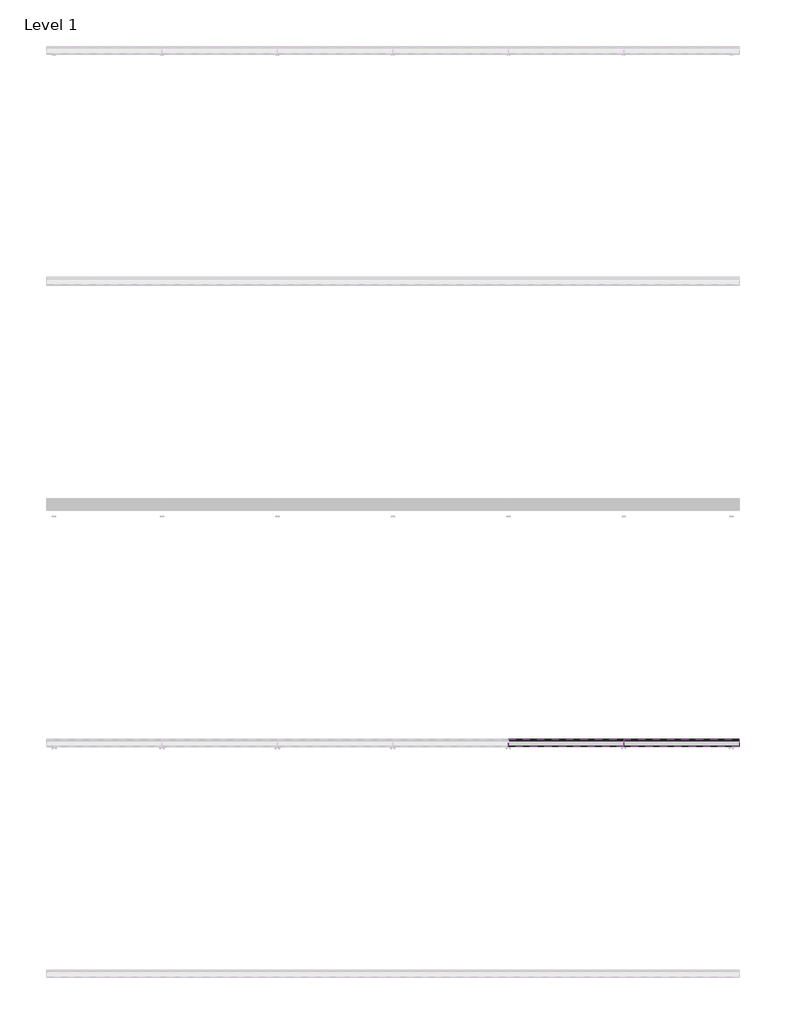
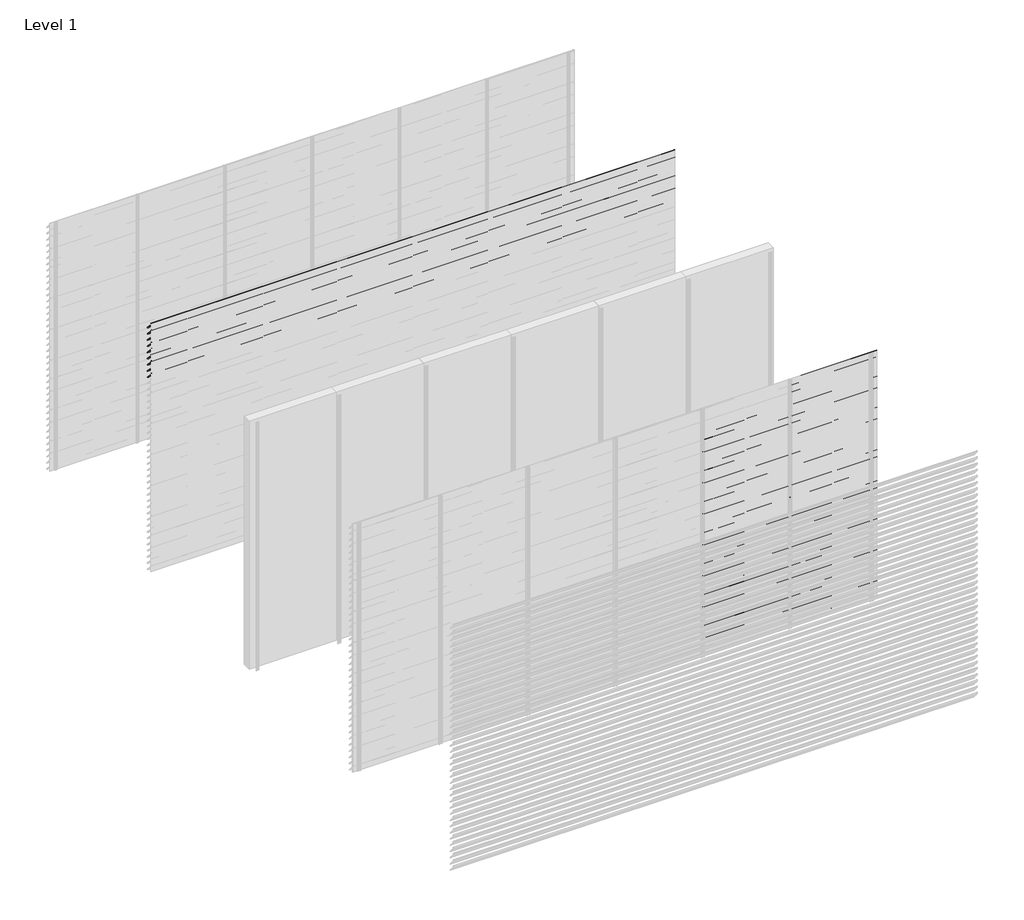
# One storey, part 32 of 35: 86 proxies.
"""IFC4 building model written with IfcOpenShell, lengths in millimetres."""

from ifc_helpers import new_model, si_unit, frame, origin, place, context, project, spatial, polyline, outline, extrude, element, save

model = new_model("IFC4")

# Units and contexts
model_context = context("Model", 3, world=origin())
ifc_project = project(units=[si_unit("LENGTHUNIT", "METRE", prefix="MILLI")], contexts=[model_context])

# Site, building, storey
site = spatial("IfcSite", under=ifc_project)
building = spatial("IfcBuilding", under=site)
storey = spatial("IfcBuildingStorey", under=building, Name="Level 1", Elevation=0.0)

# Proxies
placement = place(None, origin())
element("IfcBuildingElementProxy", 1, Name="Wall Sweeps", at=placement, inside=storey, context=model_context, shape_type="SweptSolid", body=[
    extrude(outline(polyline([(-1996.5, 3000.0), (-1996.5, 2985.5463701), (-1934.5, 2913.9330051), (-1934.5, 2910.4), (-1936.0, 2910.4), (-1936.0, 2913.3738975), (-1998.0, 2984.9872626), (-1998.0, 3000.0), (-1996.5, 3000.0)])), frame((0.0, 0.0, 0.0), z_axis=(1.0, 0.0, 0.0), x_axis=(0.0, 1.0, 0.0)), (0.0, 0.0, 1.0), 6000.0),
])
element("IfcBuildingElementProxy", 2, Name="Wall Sweeps", at=placement, inside=storey, context=model_context, shape_type="SweptSolid", body=[
    extrude(outline(polyline([(-1996.5, 2925.0), (-1996.5, 2910.5463701), (-1934.5, 2838.9330051), (-1934.5, 2835.4), (-1936.0, 2835.4), (-1936.0, 2838.3738975), (-1998.0, 2909.9872626), (-1998.0, 2925.0), (-1996.5, 2925.0)])), frame((0.0, 0.0, 0.0), z_axis=(1.0, 0.0, 0.0), x_axis=(0.0, 1.0, 0.0)), (0.0, 0.0, 1.0), 6000.0),
])
element("IfcBuildingElementProxy", 3, Name="Wall Sweeps", at=placement, inside=storey, context=model_context, shape_type="SweptSolid", body=[
    extrude(outline(polyline([(-1996.5, 2850.0), (-1996.5, 2835.5463701), (-1934.5, 2763.9330051), (-1934.5, 2760.4), (-1936.0, 2760.4), (-1936.0, 2763.3738975), (-1998.0, 2834.9872626), (-1998.0, 2850.0), (-1996.5, 2850.0)])), frame((0.0, 0.0, 0.0), z_axis=(1.0, 0.0, 0.0), x_axis=(0.0, 1.0, 0.0)), (0.0, 0.0, 1.0), 6000.0),
])
element("IfcBuildingElementProxy", 4, Name="Wall Sweeps", at=placement, inside=storey, context=model_context, shape_type="SweptSolid", body=[
    extrude(outline(polyline([(-1996.5, 2775.0), (-1996.5, 2760.5463701), (-1934.5, 2688.9330051), (-1934.5, 2685.4), (-1936.0, 2685.4), (-1936.0, 2688.3738975), (-1998.0, 2759.9872626), (-1998.0, 2775.0), (-1996.5, 2775.0)])), frame((0.0, 0.0, 0.0), z_axis=(1.0, 0.0, 0.0), x_axis=(0.0, 1.0, 0.0)), (0.0, 0.0, 1.0), 6000.0),
])
element("IfcBuildingElementProxy", 5, Name="Wall Sweeps", at=placement, inside=storey, context=model_context, shape_type="SweptSolid", body=[
    extrude(outline(polyline([(-1996.5, 2700.0), (-1996.5, 2685.5463701), (-1934.5, 2613.9330051), (-1934.5, 2610.4), (-1936.0, 2610.4), (-1936.0, 2613.3738975), (-1998.0, 2684.9872626), (-1998.0, 2700.0), (-1996.5, 2700.0)])), frame((0.0, 0.0, 0.0), z_axis=(1.0, 0.0, 0.0), x_axis=(0.0, 1.0, 0.0)), (0.0, 0.0, 1.0), 6000.0),
])
element("IfcBuildingElementProxy", 6, Name="Wall Sweeps", at=placement, inside=storey, context=model_context, shape_type="SweptSolid", body=[
    extrude(outline(polyline([(-1996.5, 2625.0), (-1996.5, 2610.5463701), (-1934.5, 2538.9330051), (-1934.5, 2535.4), (-1936.0, 2535.4), (-1936.0, 2538.3738975), (-1998.0, 2609.9872626), (-1998.0, 2625.0), (-1996.5, 2625.0)])), frame((0.0, 0.0, 0.0), z_axis=(1.0, 0.0, 0.0), x_axis=(0.0, 1.0, 0.0)), (0.0, 0.0, 1.0), 6000.0),
])
element("IfcBuildingElementProxy", 7, Name="Wall Sweeps", at=placement, inside=storey, context=model_context, shape_type="SweptSolid", body=[
    extrude(outline(polyline([(-1996.5, 2550.0), (-1996.5, 2535.5463701), (-1934.5, 2463.9330051), (-1934.5, 2460.4), (-1936.0, 2460.4), (-1936.0, 2463.3738975), (-1998.0, 2534.9872626), (-1998.0, 2550.0), (-1996.5, 2550.0)])), frame((0.0, 0.0, 0.0), z_axis=(1.0, 0.0, 0.0), x_axis=(0.0, 1.0, 0.0)), (0.0, 0.0, 1.0), 6000.0),
])
element("IfcBuildingElementProxy", 8, Name="Wall Sweeps", at=placement, inside=storey, context=model_context, shape_type="SweptSolid", body=[
    extrude(outline(polyline([(-1996.5, 2475.0), (-1996.5, 2460.5463701), (-1934.5, 2388.9330051), (-1934.5, 2385.4), (-1936.0, 2385.4), (-1936.0, 2388.3738975), (-1998.0, 2459.9872626), (-1998.0, 2475.0), (-1996.5, 2475.0)])), frame((0.0, 0.0, 0.0), z_axis=(1.0, 0.0, 0.0), x_axis=(0.0, 1.0, 0.0)), (0.0, 0.0, 1.0), 6000.0),
])
element("IfcBuildingElementProxy", 9, Name="Wall Sweeps", at=placement, inside=storey, context=model_context, shape_type="SweptSolid", body=[
    extrude(outline(polyline([(-1996.5, 2400.0), (-1996.5, 2385.5463701), (-1934.5, 2313.9330051), (-1934.5, 2310.4), (-1936.0, 2310.4), (-1936.0, 2313.3738975), (-1998.0, 2384.9872626), (-1998.0, 2400.0), (-1996.5, 2400.0)])), frame((0.0, 0.0, 0.0), z_axis=(1.0, 0.0, 0.0), x_axis=(0.0, 1.0, 0.0)), (0.0, 0.0, 1.0), 6000.0),
])
element("IfcBuildingElementProxy", 10, Name="Wall Sweeps", at=placement, inside=storey, context=model_context, shape_type="SweptSolid", body=[
    extrude(outline(polyline([(-5996.5, 2775.0), (-5996.5, 2760.5463701), (-5934.5, 2688.9330051), (-5934.5, 2685.4), (-5936.0, 2685.4), (-5936.0, 2688.3738975), (-5998.0, 2759.9872626), (-5998.0, 2775.0), (-5996.5, 2775.0)])), frame((4000.0, 0.0, 0.0), z_axis=(1.0, 0.0, 0.0), x_axis=(0.0, 1.0, 0.0)), (0.0, 0.0, 1.0), 1000.0),
])
element("IfcBuildingElementProxy", 11, Name="Wall Sweeps", at=placement, inside=storey, context=model_context, shape_type="SweptSolid", body=[
    extrude(outline(polyline([(-5996.5, 2700.0), (-5996.5, 2685.5463701), (-5934.5, 2613.9330051), (-5934.5, 2610.4), (-5936.0, 2610.4), (-5936.0, 2613.3738975), (-5998.0, 2684.9872626), (-5998.0, 2700.0), (-5996.5, 2700.0)])), frame((4000.0, 0.0, 0.0), z_axis=(1.0, 0.0, 0.0), x_axis=(0.0, 1.0, 0.0)), (0.0, 0.0, 1.0), 1000.0),
])
element("IfcBuildingElementProxy", 12, Name="Wall Sweeps", at=placement, inside=storey, context=model_context, shape_type="SweptSolid", body=[
    extrude(outline(polyline([(-5996.5, 2625.0), (-5996.5, 2610.5463701), (-5934.5, 2538.9330051), (-5934.5, 2535.4), (-5936.0, 2535.4), (-5936.0, 2538.3738975), (-5998.0, 2609.9872626), (-5998.0, 2625.0), (-5996.5, 2625.0)])), frame((4000.0, 0.0, 0.0), z_axis=(1.0, 0.0, 0.0), x_axis=(0.0, 1.0, 0.0)), (0.0, 0.0, 1.0), 1000.0),
])
element("IfcBuildingElementProxy", 13, Name="Wall Sweeps", at=placement, inside=storey, context=model_context, shape_type="SweptSolid", body=[
    extrude(outline(polyline([(-5996.5, 2550.0), (-5996.5, 2535.5463701), (-5934.5, 2463.9330051), (-5934.5, 2460.4), (-5936.0, 2460.4), (-5936.0, 2463.3738975), (-5998.0, 2534.9872626), (-5998.0, 2550.0), (-5996.5, 2550.0)])), frame((4000.0, 0.0, 0.0), z_axis=(1.0, 0.0, 0.0), x_axis=(0.0, 1.0, 0.0)), (0.0, 0.0, 1.0), 1000.0),
])
element("IfcBuildingElementProxy", 14, Name="Wall Sweeps", at=placement, inside=storey, context=model_context, shape_type="SweptSolid", body=[
    extrude(outline(polyline([(-5996.5, 2475.0), (-5996.5, 2460.5463701), (-5934.5, 2388.9330051), (-5934.5, 2385.4), (-5936.0, 2385.4), (-5936.0, 2388.3738975), (-5998.0, 2459.9872626), (-5998.0, 2475.0), (-5996.5, 2475.0)])), frame((4000.0, 0.0, 0.0), z_axis=(1.0, 0.0, 0.0), x_axis=(0.0, 1.0, 0.0)), (0.0, 0.0, 1.0), 1000.0),
])
element("IfcBuildingElementProxy", 15, Name="Wall Sweeps", at=placement, inside=storey, context=model_context, shape_type="SweptSolid", body=[
    extrude(outline(polyline([(-5996.5, 2400.0), (-5996.5, 2385.5463701), (-5934.5, 2313.9330051), (-5934.5, 2310.4), (-5936.0, 2310.4), (-5936.0, 2313.3738975), (-5998.0, 2384.9872626), (-5998.0, 2400.0), (-5996.5, 2400.0)])), frame((4000.0, 0.0, 0.0), z_axis=(1.0, 0.0, 0.0), x_axis=(0.0, 1.0, 0.0)), (0.0, 0.0, 1.0), 1000.0),
])
element("IfcBuildingElementProxy", 16, Name="Wall Sweeps", at=placement, inside=storey, context=model_context, shape_type="SweptSolid", body=[
    extrude(outline(polyline([(-5996.5, 2325.0), (-5996.5, 2310.5463701), (-5934.5, 2238.9330051), (-5934.5, 2235.4), (-5936.0, 2235.4), (-5936.0, 2238.3738975), (-5998.0, 2309.9872626), (-5998.0, 2325.0), (-5996.5, 2325.0)])), frame((4000.0, 0.0, 0.0), z_axis=(1.0, 0.0, 0.0), x_axis=(0.0, 1.0, 0.0)), (0.0, 0.0, 1.0), 1000.0),
])
element("IfcBuildingElementProxy", 17, Name="Wall Sweeps", at=placement, inside=storey, context=model_context, shape_type="SweptSolid", body=[
    extrude(outline(polyline([(-5996.5, 2250.0), (-5996.5, 2235.5463701), (-5934.5, 2163.9330051), (-5934.5, 2160.4), (-5936.0, 2160.4), (-5936.0, 2163.3738975), (-5998.0, 2234.9872626), (-5998.0, 2250.0), (-5996.5, 2250.0)])), frame((4000.0, 0.0, 0.0), z_axis=(1.0, 0.0, 0.0), x_axis=(0.0, 1.0, 0.0)), (0.0, 0.0, 1.0), 1000.0),
])
element("IfcBuildingElementProxy", 18, Name="Wall Sweeps", at=placement, inside=storey, context=model_context, shape_type="SweptSolid", body=[
    extrude(outline(polyline([(-5996.5, 2175.0), (-5996.5, 2160.5463701), (-5934.5, 2088.9330051), (-5934.5, 2085.4), (-5936.0, 2085.4), (-5936.0, 2088.3738975), (-5998.0, 2159.9872626), (-5998.0, 2175.0), (-5996.5, 2175.0)])), frame((4000.0, 0.0, 0.0), z_axis=(1.0, 0.0, 0.0), x_axis=(0.0, 1.0, 0.0)), (0.0, 0.0, 1.0), 1000.0),
])
element("IfcBuildingElementProxy", 19, Name="Wall Sweeps", at=placement, inside=storey, context=model_context, shape_type="SweptSolid", body=[
    extrude(outline(polyline([(-5996.5, 2100.0), (-5996.5, 2085.5463701), (-5934.5, 2013.9330051), (-5934.5, 2010.4), (-5936.0, 2010.4), (-5936.0, 2013.3738975), (-5998.0, 2084.9872626), (-5998.0, 2100.0), (-5996.5, 2100.0)])), frame((4000.0, 0.0, 0.0), z_axis=(1.0, 0.0, 0.0), x_axis=(0.0, 1.0, 0.0)), (0.0, 0.0, 1.0), 1000.0),
])
element("IfcBuildingElementProxy", 20, Name="Wall Sweeps", at=placement, inside=storey, context=model_context, shape_type="SweptSolid", body=[
    extrude(outline(polyline([(-5996.5, 2025.0), (-5996.5, 2010.5463701), (-5934.5, 1938.9330051), (-5934.5, 1935.4), (-5936.0, 1935.4), (-5936.0, 1938.3738975), (-5998.0, 2009.9872626), (-5998.0, 2025.0), (-5996.5, 2025.0)])), frame((4000.0, 0.0, 0.0), z_axis=(1.0, 0.0, 0.0), x_axis=(0.0, 1.0, 0.0)), (0.0, 0.0, 1.0), 1000.0),
])
element("IfcBuildingElementProxy", 21, Name="Wall Sweeps", at=placement, inside=storey, context=model_context, shape_type="SweptSolid", body=[
    extrude(outline(polyline([(-5996.5, 1950.0), (-5996.5, 1935.5463701), (-5934.5, 1863.9330051), (-5934.5, 1860.4), (-5936.0, 1860.4), (-5936.0, 1863.3738975), (-5998.0, 1934.9872626), (-5998.0, 1950.0), (-5996.5, 1950.0)])), frame((4000.0, 0.0, 0.0), z_axis=(1.0, 0.0, 0.0), x_axis=(0.0, 1.0, 0.0)), (0.0, 0.0, 1.0), 1000.0),
])
element("IfcBuildingElementProxy", 22, Name="Wall Sweeps", at=placement, inside=storey, context=model_context, shape_type="SweptSolid", body=[
    extrude(outline(polyline([(-5996.5, 1875.0), (-5996.5, 1860.5463701), (-5934.5, 1788.9330051), (-5934.5, 1785.4), (-5936.0, 1785.4), (-5936.0, 1788.3738975), (-5998.0, 1859.9872626), (-5998.0, 1875.0), (-5996.5, 1875.0)])), frame((4000.0, 0.0, 0.0), z_axis=(1.0, 0.0, 0.0), x_axis=(0.0, 1.0, 0.0)), (0.0, 0.0, 1.0), 1000.0),
])
element("IfcBuildingElementProxy", 23, Name="Wall Sweeps", at=placement, inside=storey, context=model_context, shape_type="SweptSolid", body=[
    extrude(outline(polyline([(-5996.5, 1800.0), (-5996.5, 1785.5463701), (-5934.5, 1713.9330051), (-5934.5, 1710.4), (-5936.0, 1710.4), (-5936.0, 1713.3738975), (-5998.0, 1784.9872626), (-5998.0, 1800.0), (-5996.5, 1800.0)])), frame((4000.0, 0.0, 0.0), z_axis=(1.0, 0.0, 0.0), x_axis=(0.0, 1.0, 0.0)), (0.0, 0.0, 1.0), 1000.0),
])
element("IfcBuildingElementProxy", 24, Name="Wall Sweeps", at=placement, inside=storey, context=model_context, shape_type="SweptSolid", body=[
    extrude(outline(polyline([(-5996.5, 1725.0), (-5996.5, 1710.5463701), (-5934.5, 1638.9330051), (-5934.5, 1635.4), (-5936.0, 1635.4), (-5936.0, 1638.3738975), (-5998.0, 1709.9872626), (-5998.0, 1725.0), (-5996.5, 1725.0)])), frame((4000.0, 0.0, 0.0), z_axis=(1.0, 0.0, 0.0), x_axis=(0.0, 1.0, 0.0)), (0.0, 0.0, 1.0), 1000.0),
])
element("IfcBuildingElementProxy", 25, Name="Wall Sweeps", at=placement, inside=storey, context=model_context, shape_type="SweptSolid", body=[
    extrude(outline(polyline([(-5996.5, 1650.0), (-5996.5, 1635.5463701), (-5934.5, 1563.9330051), (-5934.5, 1560.4), (-5936.0, 1560.4), (-5936.0, 1563.3738975), (-5998.0, 1634.9872626), (-5998.0, 1650.0), (-5996.5, 1650.0)])), frame((4000.0, 0.0, 0.0), z_axis=(1.0, 0.0, 0.0), x_axis=(0.0, 1.0, 0.0)), (0.0, 0.0, 1.0), 1000.0),
])
element("IfcBuildingElementProxy", 26, Name="Wall Sweeps", at=placement, inside=storey, context=model_context, shape_type="SweptSolid", body=[
    extrude(outline(polyline([(-5996.5, 1575.0), (-5996.5, 1560.5463701), (-5934.5, 1488.9330051), (-5934.5, 1485.4), (-5936.0, 1485.4), (-5936.0, 1488.3738975), (-5998.0, 1559.9872626), (-5998.0, 1575.0), (-5996.5, 1575.0)])), frame((4000.0, 0.0, 0.0), z_axis=(1.0, 0.0, 0.0), x_axis=(0.0, 1.0, 0.0)), (0.0, 0.0, 1.0), 1000.0),
])
element("IfcBuildingElementProxy", 27, Name="Wall Sweeps", at=placement, inside=storey, context=model_context, shape_type="SweptSolid", body=[
    extrude(outline(polyline([(-5996.5, 1500.0), (-5996.5, 1485.5463701), (-5934.5, 1413.9330051), (-5934.5, 1410.4), (-5936.0, 1410.4), (-5936.0, 1413.3738975), (-5998.0, 1484.9872626), (-5998.0, 1500.0), (-5996.5, 1500.0)])), frame((4000.0, 0.0, 0.0), z_axis=(1.0, 0.0, 0.0), x_axis=(0.0, 1.0, 0.0)), (0.0, 0.0, 1.0), 1000.0),
])
element("IfcBuildingElementProxy", 28, Name="Wall Sweeps", at=placement, inside=storey, context=model_context, shape_type="SweptSolid", body=[
    extrude(outline(polyline([(-5996.5, 1425.0), (-5996.5, 1410.5463701), (-5934.5, 1338.9330051), (-5934.5, 1335.4), (-5936.0, 1335.4), (-5936.0, 1338.3738975), (-5998.0, 1409.9872626), (-5998.0, 1425.0), (-5996.5, 1425.0)])), frame((4000.0, 0.0, 0.0), z_axis=(1.0, 0.0, 0.0), x_axis=(0.0, 1.0, 0.0)), (0.0, 0.0, 1.0), 1000.0),
])
element("IfcBuildingElementProxy", 29, Name="Wall Sweeps", at=placement, inside=storey, context=model_context, shape_type="SweptSolid", body=[
    extrude(outline(polyline([(-5996.5, 1350.0), (-5996.5, 1335.5463701), (-5934.5, 1263.9330051), (-5934.5, 1260.4), (-5936.0, 1260.4), (-5936.0, 1263.3738975), (-5998.0, 1334.9872626), (-5998.0, 1350.0), (-5996.5, 1350.0)])), frame((4000.0, 0.0, 0.0), z_axis=(1.0, 0.0, 0.0), x_axis=(0.0, 1.0, 0.0)), (0.0, 0.0, 1.0), 1000.0),
])
element("IfcBuildingElementProxy", 30, Name="Wall Sweeps", at=placement, inside=storey, context=model_context, shape_type="SweptSolid", body=[
    extrude(outline(polyline([(-5996.5, 1275.0), (-5996.5, 1260.5463701), (-5934.5, 1188.9330051), (-5934.5, 1185.4), (-5936.0, 1185.4), (-5936.0, 1188.3738975), (-5998.0, 1259.9872626), (-5998.0, 1275.0), (-5996.5, 1275.0)])), frame((4000.0, 0.0, 0.0), z_axis=(1.0, 0.0, 0.0), x_axis=(0.0, 1.0, 0.0)), (0.0, 0.0, 1.0), 1000.0),
])
element("IfcBuildingElementProxy", 31, Name="Wall Sweeps", at=placement, inside=storey, context=model_context, shape_type="SweptSolid", body=[
    extrude(outline(polyline([(-5996.5, 1200.0), (-5996.5, 1185.5463701), (-5934.5, 1113.9330051), (-5934.5, 1110.4), (-5936.0, 1110.4), (-5936.0, 1113.3738975), (-5998.0, 1184.9872626), (-5998.0, 1200.0), (-5996.5, 1200.0)])), frame((4000.0, 0.0, 0.0), z_axis=(1.0, 0.0, 0.0), x_axis=(0.0, 1.0, 0.0)), (0.0, 0.0, 1.0), 1000.0),
])
element("IfcBuildingElementProxy", 32, Name="Wall Sweeps", at=placement, inside=storey, context=model_context, shape_type="SweptSolid", body=[
    extrude(outline(polyline([(-5996.5, 1125.0), (-5996.5, 1110.5463701), (-5934.5, 1038.9330051), (-5934.5, 1035.4), (-5936.0, 1035.4), (-5936.0, 1038.3738975), (-5998.0, 1109.9872626), (-5998.0, 1125.0), (-5996.5, 1125.0)])), frame((4000.0, 0.0, 0.0), z_axis=(1.0, 0.0, 0.0), x_axis=(0.0, 1.0, 0.0)), (0.0, 0.0, 1.0), 1000.0),
])
element("IfcBuildingElementProxy", 33, Name="Wall Sweeps", at=placement, inside=storey, context=model_context, shape_type="SweptSolid", body=[
    extrude(outline(polyline([(-5996.5, 1050.0), (-5996.5, 1035.5463701), (-5934.5, 963.9330051), (-5934.5, 960.4), (-5936.0, 960.4), (-5936.0, 963.3738975), (-5998.0, 1034.9872626), (-5998.0, 1050.0), (-5996.5, 1050.0)])), frame((4000.0, 0.0, 0.0), z_axis=(1.0, 0.0, 0.0), x_axis=(0.0, 1.0, 0.0)), (0.0, 0.0, 1.0), 1000.0),
])
element("IfcBuildingElementProxy", 34, Name="Wall Sweeps", at=placement, inside=storey, context=model_context, shape_type="SweptSolid", body=[
    extrude(outline(polyline([(-5996.5, 975.0), (-5996.5, 960.5463701), (-5934.5, 888.9330051), (-5934.5, 885.4), (-5936.0, 885.4), (-5936.0, 888.3738975), (-5998.0, 959.9872626), (-5998.0, 975.0), (-5996.5, 975.0)])), frame((4000.0, 0.0, 0.0), z_axis=(1.0, 0.0, 0.0), x_axis=(0.0, 1.0, 0.0)), (0.0, 0.0, 1.0), 1000.0),
])
element("IfcBuildingElementProxy", 35, Name="Wall Sweeps", at=placement, inside=storey, context=model_context, shape_type="SweptSolid", body=[
    extrude(outline(polyline([(-5996.5, 900.0), (-5996.5, 885.5463701), (-5934.5, 813.9330051), (-5934.5, 810.4), (-5936.0, 810.4), (-5936.0, 813.3738975), (-5998.0, 884.9872626), (-5998.0, 900.0), (-5996.5, 900.0)])), frame((4000.0, 0.0, 0.0), z_axis=(1.0, 0.0, 0.0), x_axis=(0.0, 1.0, 0.0)), (0.0, 0.0, 1.0), 1000.0),
])
element("IfcBuildingElementProxy", 36, Name="Wall Sweeps", at=placement, inside=storey, context=model_context, shape_type="SweptSolid", body=[
    extrude(outline(polyline([(-5996.5, 825.0), (-5996.5, 810.5463701), (-5934.5, 738.9330051), (-5934.5, 735.4), (-5936.0, 735.4), (-5936.0, 738.3738975), (-5998.0, 809.9872626), (-5998.0, 825.0), (-5996.5, 825.0)])), frame((4000.0, 0.0, 0.0), z_axis=(1.0, 0.0, 0.0), x_axis=(0.0, 1.0, 0.0)), (0.0, 0.0, 1.0), 1000.0),
])
element("IfcBuildingElementProxy", 37, Name="Wall Sweeps", at=placement, inside=storey, context=model_context, shape_type="SweptSolid", body=[
    extrude(outline(polyline([(-5996.5, 750.0), (-5996.5, 735.5463701), (-5934.5, 663.9330051), (-5934.5, 660.4), (-5936.0, 660.4), (-5936.0, 663.3738975), (-5998.0, 734.9872626), (-5998.0, 750.0), (-5996.5, 750.0)])), frame((4000.0, 0.0, 0.0), z_axis=(1.0, 0.0, 0.0), x_axis=(0.0, 1.0, 0.0)), (0.0, 0.0, 1.0), 1000.0),
])
element("IfcBuildingElementProxy", 38, Name="Wall Sweeps", at=placement, inside=storey, context=model_context, shape_type="SweptSolid", body=[
    extrude(outline(polyline([(-5996.5, 675.0), (-5996.5, 660.5463701), (-5934.5, 588.9330051), (-5934.5, 585.4), (-5936.0, 585.4), (-5936.0, 588.3738975), (-5998.0, 659.9872626), (-5998.0, 675.0), (-5996.5, 675.0)])), frame((4000.0, 0.0, 0.0), z_axis=(1.0, 0.0, 0.0), x_axis=(0.0, 1.0, 0.0)), (0.0, 0.0, 1.0), 1000.0),
])
element("IfcBuildingElementProxy", 39, Name="Wall Sweeps", at=placement, inside=storey, context=model_context, shape_type="SweptSolid", body=[
    extrude(outline(polyline([(-5996.5, 600.0), (-5996.5, 585.5463701), (-5934.5, 513.9330051), (-5934.5, 510.4), (-5936.0, 510.4), (-5936.0, 513.3738975), (-5998.0, 584.9872626), (-5998.0, 600.0), (-5996.5, 600.0)])), frame((4000.0, 0.0, 0.0), z_axis=(1.0, 0.0, 0.0), x_axis=(0.0, 1.0, 0.0)), (0.0, 0.0, 1.0), 1000.0),
])
element("IfcBuildingElementProxy", 40, Name="Wall Sweeps", at=placement, inside=storey, context=model_context, shape_type="SweptSolid", body=[
    extrude(outline(polyline([(-5996.5, 525.0), (-5996.5, 510.5463701), (-5934.5, 438.9330051), (-5934.5, 435.4), (-5936.0, 435.4), (-5936.0, 438.3738975), (-5998.0, 509.9872626), (-5998.0, 525.0), (-5996.5, 525.0)])), frame((4000.0, 0.0, 0.0), z_axis=(1.0, 0.0, 0.0), x_axis=(0.0, 1.0, 0.0)), (0.0, 0.0, 1.0), 1000.0),
])
element("IfcBuildingElementProxy", 41, Name="Wall Sweeps", at=placement, inside=storey, context=model_context, shape_type="SweptSolid", body=[
    extrude(outline(polyline([(-5996.5, 450.0), (-5996.5, 435.5463701), (-5934.5, 363.9330051), (-5934.5, 360.4), (-5936.0, 360.4), (-5936.0, 363.3738975), (-5998.0, 434.9872626), (-5998.0, 450.0), (-5996.5, 450.0)])), frame((4000.0, 0.0, 0.0), z_axis=(1.0, 0.0, 0.0), x_axis=(0.0, 1.0, 0.0)), (0.0, 0.0, 1.0), 1000.0),
])
element("IfcBuildingElementProxy", 42, Name="Wall Sweeps", at=placement, inside=storey, context=model_context, shape_type="SweptSolid", body=[
    extrude(outline(polyline([(-5996.5, 375.0), (-5996.5, 360.5463701), (-5934.5, 288.9330051), (-5934.5, 285.4), (-5936.0, 285.4), (-5936.0, 288.3738975), (-5998.0, 359.9872626), (-5998.0, 375.0), (-5996.5, 375.0)])), frame((4000.0, 0.0, 0.0), z_axis=(1.0, 0.0, 0.0), x_axis=(0.0, 1.0, 0.0)), (0.0, 0.0, 1.0), 1000.0),
])
element("IfcBuildingElementProxy", 43, Name="Wall Sweeps", at=placement, inside=storey, context=model_context, shape_type="SweptSolid", body=[
    extrude(outline(polyline([(-5996.5, 300.0), (-5996.5, 285.5463701), (-5934.5, 213.9330051), (-5934.5, 210.4), (-5936.0, 210.4), (-5936.0, 213.3738975), (-5998.0, 284.9872626), (-5998.0, 300.0), (-5996.5, 300.0)])), frame((4000.0, 0.0, 0.0), z_axis=(1.0, 0.0, 0.0), x_axis=(0.0, 1.0, 0.0)), (0.0, 0.0, 1.0), 1000.0),
])
element("IfcBuildingElementProxy", 44, Name="Wall Sweeps", at=placement, inside=storey, context=model_context, shape_type="SweptSolid", body=[
    extrude(outline(polyline([(-5996.5, 225.0), (-5996.5, 210.5463701), (-5934.5, 138.9330051), (-5934.5, 135.4), (-5936.0, 135.4), (-5936.0, 138.3738975), (-5998.0, 209.9872626), (-5998.0, 225.0), (-5996.5, 225.0)])), frame((4000.0, 0.0, 0.0), z_axis=(1.0, 0.0, 0.0), x_axis=(0.0, 1.0, 0.0)), (0.0, 0.0, 1.0), 1000.0),
])
element("IfcBuildingElementProxy", 45, Name="Wall Sweeps", at=placement, inside=storey, context=model_context, shape_type="SweptSolid", body=[
    extrude(outline(polyline([(-5996.5, 150.0), (-5996.5, 135.5463701), (-5934.5, 63.9330051), (-5934.5, 60.4), (-5936.0, 60.4), (-5936.0, 63.3738975), (-5998.0, 134.9872626), (-5998.0, 150.0), (-5996.5, 150.0)])), frame((4000.0, 0.0, 0.0), z_axis=(1.0, 0.0, 0.0), x_axis=(0.0, 1.0, 0.0)), (0.0, 0.0, 1.0), 1000.0),
])
element("IfcBuildingElementProxy", 46, Name="Wall Sweeps", at=placement, inside=storey, context=model_context, shape_type="SweptSolid", body=[
    extrude(outline(polyline([(-5996.5, 75.0), (-5996.5, 60.5463701), (-5934.5, -11.0669949), (-5934.5, -14.6), (-5936.0, -14.6), (-5936.0, -11.6261025), (-5998.0, 59.9872626), (-5998.0, 75.0), (-5996.5, 75.0)])), frame((4000.0, 0.0, 0.0), z_axis=(1.0, 0.0, 0.0), x_axis=(0.0, 1.0, 0.0)), (0.0, 0.0, 1.0), 1000.0),
])
element("IfcBuildingElementProxy", 47, Name="Wall Sweeps", at=placement, inside=storey, context=model_context, shape_type="SweptSolid", body=[
    extrude(outline(polyline([(-5996.5, 3000.0), (-5996.5, 2985.5463701), (-5934.5, 2913.9330051), (-5934.5, 2910.4), (-5936.0, 2910.4), (-5936.0, 2913.3738975), (-5998.0, 2984.9872626), (-5998.0, 3000.0), (-5996.5, 3000.0)])), frame((5000.0, 0.0, 0.0), z_axis=(1.0, 0.0, 0.0), x_axis=(0.0, 1.0, 0.0)), (0.0, 0.0, 1.0), 1000.0),
])
element("IfcBuildingElementProxy", 48, Name="Wall Sweeps", at=placement, inside=storey, context=model_context, shape_type="SweptSolid", body=[
    extrude(outline(polyline([(-5996.5, 2925.0), (-5996.5, 2910.5463701), (-5934.5, 2838.9330051), (-5934.5, 2835.4), (-5936.0, 2835.4), (-5936.0, 2838.3738975), (-5998.0, 2909.9872626), (-5998.0, 2925.0), (-5996.5, 2925.0)])), frame((5000.0, 0.0, 0.0), z_axis=(1.0, 0.0, 0.0), x_axis=(0.0, 1.0, 0.0)), (0.0, 0.0, 1.0), 1000.0),
])
element("IfcBuildingElementProxy", 49, Name="Wall Sweeps", at=placement, inside=storey, context=model_context, shape_type="SweptSolid", body=[
    extrude(outline(polyline([(-5996.5, 2850.0), (-5996.5, 2835.5463701), (-5934.5, 2763.9330051), (-5934.5, 2760.4), (-5936.0, 2760.4), (-5936.0, 2763.3738975), (-5998.0, 2834.9872626), (-5998.0, 2850.0), (-5996.5, 2850.0)])), frame((5000.0, 0.0, 0.0), z_axis=(1.0, 0.0, 0.0), x_axis=(0.0, 1.0, 0.0)), (0.0, 0.0, 1.0), 1000.0),
])
element("IfcBuildingElementProxy", 50, Name="Wall Sweeps", at=placement, inside=storey, context=model_context, shape_type="SweptSolid", body=[
    extrude(outline(polyline([(-5996.5, 2775.0), (-5996.5, 2760.5463701), (-5934.5, 2688.9330051), (-5934.5, 2685.4), (-5936.0, 2685.4), (-5936.0, 2688.3738975), (-5998.0, 2759.9872626), (-5998.0, 2775.0), (-5996.5, 2775.0)])), frame((5000.0, 0.0, 0.0), z_axis=(1.0, 0.0, 0.0), x_axis=(0.0, 1.0, 0.0)), (0.0, 0.0, 1.0), 1000.0),
])
element("IfcBuildingElementProxy", 51, Name="Wall Sweeps", at=placement, inside=storey, context=model_context, shape_type="SweptSolid", body=[
    extrude(outline(polyline([(-5996.5, 2700.0), (-5996.5, 2685.5463701), (-5934.5, 2613.9330051), (-5934.5, 2610.4), (-5936.0, 2610.4), (-5936.0, 2613.3738975), (-5998.0, 2684.9872626), (-5998.0, 2700.0), (-5996.5, 2700.0)])), frame((5000.0, 0.0, 0.0), z_axis=(1.0, 0.0, 0.0), x_axis=(0.0, 1.0, 0.0)), (0.0, 0.0, 1.0), 1000.0),
])
element("IfcBuildingElementProxy", 52, Name="Wall Sweeps", at=placement, inside=storey, context=model_context, shape_type="SweptSolid", body=[
    extrude(outline(polyline([(-5996.5, 2625.0), (-5996.5, 2610.5463701), (-5934.5, 2538.9330051), (-5934.5, 2535.4), (-5936.0, 2535.4), (-5936.0, 2538.3738975), (-5998.0, 2609.9872626), (-5998.0, 2625.0), (-5996.5, 2625.0)])), frame((5000.0, 0.0, 0.0), z_axis=(1.0, 0.0, 0.0), x_axis=(0.0, 1.0, 0.0)), (0.0, 0.0, 1.0), 1000.0),
])
element("IfcBuildingElementProxy", 53, Name="Wall Sweeps", at=placement, inside=storey, context=model_context, shape_type="SweptSolid", body=[
    extrude(outline(polyline([(-5996.5, 2550.0), (-5996.5, 2535.5463701), (-5934.5, 2463.9330051), (-5934.5, 2460.4), (-5936.0, 2460.4), (-5936.0, 2463.3738975), (-5998.0, 2534.9872626), (-5998.0, 2550.0), (-5996.5, 2550.0)])), frame((5000.0, 0.0, 0.0), z_axis=(1.0, 0.0, 0.0), x_axis=(0.0, 1.0, 0.0)), (0.0, 0.0, 1.0), 1000.0),
])
element("IfcBuildingElementProxy", 54, Name="Wall Sweeps", at=placement, inside=storey, context=model_context, shape_type="SweptSolid", body=[
    extrude(outline(polyline([(-5996.5, 2475.0), (-5996.5, 2460.5463701), (-5934.5, 2388.9330051), (-5934.5, 2385.4), (-5936.0, 2385.4), (-5936.0, 2388.3738975), (-5998.0, 2459.9872626), (-5998.0, 2475.0), (-5996.5, 2475.0)])), frame((5000.0, 0.0, 0.0), z_axis=(1.0, 0.0, 0.0), x_axis=(0.0, 1.0, 0.0)), (0.0, 0.0, 1.0), 1000.0),
])
element("IfcBuildingElementProxy", 55, Name="Wall Sweeps", at=placement, inside=storey, context=model_context, shape_type="SweptSolid", body=[
    extrude(outline(polyline([(-5996.5, 2400.0), (-5996.5, 2385.5463701), (-5934.5, 2313.9330051), (-5934.5, 2310.4), (-5936.0, 2310.4), (-5936.0, 2313.3738975), (-5998.0, 2384.9872626), (-5998.0, 2400.0), (-5996.5, 2400.0)])), frame((5000.0, 0.0, 0.0), z_axis=(1.0, 0.0, 0.0), x_axis=(0.0, 1.0, 0.0)), (0.0, 0.0, 1.0), 1000.0),
])
element("IfcBuildingElementProxy", 56, Name="Wall Sweeps", at=placement, inside=storey, context=model_context, shape_type="SweptSolid", body=[
    extrude(outline(polyline([(-5996.5, 2325.0), (-5996.5, 2310.5463701), (-5934.5, 2238.9330051), (-5934.5, 2235.4), (-5936.0, 2235.4), (-5936.0, 2238.3738975), (-5998.0, 2309.9872626), (-5998.0, 2325.0), (-5996.5, 2325.0)])), frame((5000.0, 0.0, 0.0), z_axis=(1.0, 0.0, 0.0), x_axis=(0.0, 1.0, 0.0)), (0.0, 0.0, 1.0), 1000.0),
])
element("IfcBuildingElementProxy", 57, Name="Wall Sweeps", at=placement, inside=storey, context=model_context, shape_type="SweptSolid", body=[
    extrude(outline(polyline([(-5996.5, 2250.0), (-5996.5, 2235.5463701), (-5934.5, 2163.9330051), (-5934.5, 2160.4), (-5936.0, 2160.4), (-5936.0, 2163.3738975), (-5998.0, 2234.9872626), (-5998.0, 2250.0), (-5996.5, 2250.0)])), frame((5000.0, 0.0, 0.0), z_axis=(1.0, 0.0, 0.0), x_axis=(0.0, 1.0, 0.0)), (0.0, 0.0, 1.0), 1000.0),
])
element("IfcBuildingElementProxy", 58, Name="Wall Sweeps", at=placement, inside=storey, context=model_context, shape_type="SweptSolid", body=[
    extrude(outline(polyline([(-5996.5, 2175.0), (-5996.5, 2160.5463701), (-5934.5, 2088.9330051), (-5934.5, 2085.4), (-5936.0, 2085.4), (-5936.0, 2088.3738975), (-5998.0, 2159.9872626), (-5998.0, 2175.0), (-5996.5, 2175.0)])), frame((5000.0, 0.0, 0.0), z_axis=(1.0, 0.0, 0.0), x_axis=(0.0, 1.0, 0.0)), (0.0, 0.0, 1.0), 1000.0),
])
element("IfcBuildingElementProxy", 59, Name="Wall Sweeps", at=placement, inside=storey, context=model_context, shape_type="SweptSolid", body=[
    extrude(outline(polyline([(-5996.5, 2100.0), (-5996.5, 2085.5463701), (-5934.5, 2013.9330051), (-5934.5, 2010.4), (-5936.0, 2010.4), (-5936.0, 2013.3738975), (-5998.0, 2084.9872626), (-5998.0, 2100.0), (-5996.5, 2100.0)])), frame((5000.0, 0.0, 0.0), z_axis=(1.0, 0.0, 0.0), x_axis=(0.0, 1.0, 0.0)), (0.0, 0.0, 1.0), 1000.0),
])
element("IfcBuildingElementProxy", 60, Name="Wall Sweeps", at=placement, inside=storey, context=model_context, shape_type="SweptSolid", body=[
    extrude(outline(polyline([(-5996.5, 2025.0), (-5996.5, 2010.5463701), (-5934.5, 1938.9330051), (-5934.5, 1935.4), (-5936.0, 1935.4), (-5936.0, 1938.3738975), (-5998.0, 2009.9872626), (-5998.0, 2025.0), (-5996.5, 2025.0)])), frame((5000.0, 0.0, 0.0), z_axis=(1.0, 0.0, 0.0), x_axis=(0.0, 1.0, 0.0)), (0.0, 0.0, 1.0), 1000.0),
])
element("IfcBuildingElementProxy", 61, Name="Wall Sweeps", at=placement, inside=storey, context=model_context, shape_type="SweptSolid", body=[
    extrude(outline(polyline([(-5996.5, 1950.0), (-5996.5, 1935.5463701), (-5934.5, 1863.9330051), (-5934.5, 1860.4), (-5936.0, 1860.4), (-5936.0, 1863.3738975), (-5998.0, 1934.9872626), (-5998.0, 1950.0), (-5996.5, 1950.0)])), frame((5000.0, 0.0, 0.0), z_axis=(1.0, 0.0, 0.0), x_axis=(0.0, 1.0, 0.0)), (0.0, 0.0, 1.0), 1000.0),
])
element("IfcBuildingElementProxy", 62, Name="Wall Sweeps", at=placement, inside=storey, context=model_context, shape_type="SweptSolid", body=[
    extrude(outline(polyline([(-5996.5, 1875.0), (-5996.5, 1860.5463701), (-5934.5, 1788.9330051), (-5934.5, 1785.4), (-5936.0, 1785.4), (-5936.0, 1788.3738975), (-5998.0, 1859.9872626), (-5998.0, 1875.0), (-5996.5, 1875.0)])), frame((5000.0, 0.0, 0.0), z_axis=(1.0, 0.0, 0.0), x_axis=(0.0, 1.0, 0.0)), (0.0, 0.0, 1.0), 1000.0),
])
element("IfcBuildingElementProxy", 63, Name="Wall Sweeps", at=placement, inside=storey, context=model_context, shape_type="SweptSolid", body=[
    extrude(outline(polyline([(-5996.5, 1800.0), (-5996.5, 1785.5463701), (-5934.5, 1713.9330051), (-5934.5, 1710.4), (-5936.0, 1710.4), (-5936.0, 1713.3738975), (-5998.0, 1784.9872626), (-5998.0, 1800.0), (-5996.5, 1800.0)])), frame((5000.0, 0.0, 0.0), z_axis=(1.0, 0.0, 0.0), x_axis=(0.0, 1.0, 0.0)), (0.0, 0.0, 1.0), 1000.0),
])
element("IfcBuildingElementProxy", 64, Name="Wall Sweeps", at=placement, inside=storey, context=model_context, shape_type="SweptSolid", body=[
    extrude(outline(polyline([(-5996.5, 1725.0), (-5996.5, 1710.5463701), (-5934.5, 1638.9330051), (-5934.5, 1635.4), (-5936.0, 1635.4), (-5936.0, 1638.3738975), (-5998.0, 1709.9872626), (-5998.0, 1725.0), (-5996.5, 1725.0)])), frame((5000.0, 0.0, 0.0), z_axis=(1.0, 0.0, 0.0), x_axis=(0.0, 1.0, 0.0)), (0.0, 0.0, 1.0), 1000.0),
])
element("IfcBuildingElementProxy", 65, Name="Wall Sweeps", at=placement, inside=storey, context=model_context, shape_type="SweptSolid", body=[
    extrude(outline(polyline([(-5996.5, 1650.0), (-5996.5, 1635.5463701), (-5934.5, 1563.9330051), (-5934.5, 1560.4), (-5936.0, 1560.4), (-5936.0, 1563.3738975), (-5998.0, 1634.9872626), (-5998.0, 1650.0), (-5996.5, 1650.0)])), frame((5000.0, 0.0, 0.0), z_axis=(1.0, 0.0, 0.0), x_axis=(0.0, 1.0, 0.0)), (0.0, 0.0, 1.0), 1000.0),
])
element("IfcBuildingElementProxy", 66, Name="Wall Sweeps", at=placement, inside=storey, context=model_context, shape_type="SweptSolid", body=[
    extrude(outline(polyline([(-5996.5, 1575.0), (-5996.5, 1560.5463701), (-5934.5, 1488.9330051), (-5934.5, 1485.4), (-5936.0, 1485.4), (-5936.0, 1488.3738975), (-5998.0, 1559.9872626), (-5998.0, 1575.0), (-5996.5, 1575.0)])), frame((5000.0, 0.0, 0.0), z_axis=(1.0, 0.0, 0.0), x_axis=(0.0, 1.0, 0.0)), (0.0, 0.0, 1.0), 1000.0),
])
element("IfcBuildingElementProxy", 67, Name="Wall Sweeps", at=placement, inside=storey, context=model_context, shape_type="SweptSolid", body=[
    extrude(outline(polyline([(-5996.5, 1500.0), (-5996.5, 1485.5463701), (-5934.5, 1413.9330051), (-5934.5, 1410.4), (-5936.0, 1410.4), (-5936.0, 1413.3738975), (-5998.0, 1484.9872626), (-5998.0, 1500.0), (-5996.5, 1500.0)])), frame((5000.0, 0.0, 0.0), z_axis=(1.0, 0.0, 0.0), x_axis=(0.0, 1.0, 0.0)), (0.0, 0.0, 1.0), 1000.0),
])
element("IfcBuildingElementProxy", 68, Name="Wall Sweeps", at=placement, inside=storey, context=model_context, shape_type="SweptSolid", body=[
    extrude(outline(polyline([(-5996.5, 1425.0), (-5996.5, 1410.5463701), (-5934.5, 1338.9330051), (-5934.5, 1335.4), (-5936.0, 1335.4), (-5936.0, 1338.3738975), (-5998.0, 1409.9872626), (-5998.0, 1425.0), (-5996.5, 1425.0)])), frame((5000.0, 0.0, 0.0), z_axis=(1.0, 0.0, 0.0), x_axis=(0.0, 1.0, 0.0)), (0.0, 0.0, 1.0), 1000.0),
])
element("IfcBuildingElementProxy", 69, Name="Wall Sweeps", at=placement, inside=storey, context=model_context, shape_type="SweptSolid", body=[
    extrude(outline(polyline([(-5996.5, 1350.0), (-5996.5, 1335.5463701), (-5934.5, 1263.9330051), (-5934.5, 1260.4), (-5936.0, 1260.4), (-5936.0, 1263.3738975), (-5998.0, 1334.9872626), (-5998.0, 1350.0), (-5996.5, 1350.0)])), frame((5000.0, 0.0, 0.0), z_axis=(1.0, 0.0, 0.0), x_axis=(0.0, 1.0, 0.0)), (0.0, 0.0, 1.0), 1000.0),
])
element("IfcBuildingElementProxy", 70, Name="Wall Sweeps", at=placement, inside=storey, context=model_context, shape_type="SweptSolid", body=[
    extrude(outline(polyline([(-5996.5, 1275.0), (-5996.5, 1260.5463701), (-5934.5, 1188.9330051), (-5934.5, 1185.4), (-5936.0, 1185.4), (-5936.0, 1188.3738975), (-5998.0, 1259.9872626), (-5998.0, 1275.0), (-5996.5, 1275.0)])), frame((5000.0, 0.0, 0.0), z_axis=(1.0, 0.0, 0.0), x_axis=(0.0, 1.0, 0.0)), (0.0, 0.0, 1.0), 1000.0),
])
element("IfcBuildingElementProxy", 71, Name="Wall Sweeps", at=placement, inside=storey, context=model_context, shape_type="SweptSolid", body=[
    extrude(outline(polyline([(-5996.5, 1200.0), (-5996.5, 1185.5463701), (-5934.5, 1113.9330051), (-5934.5, 1110.4), (-5936.0, 1110.4), (-5936.0, 1113.3738975), (-5998.0, 1184.9872626), (-5998.0, 1200.0), (-5996.5, 1200.0)])), frame((5000.0, 0.0, 0.0), z_axis=(1.0, 0.0, 0.0), x_axis=(0.0, 1.0, 0.0)), (0.0, 0.0, 1.0), 1000.0),
])
element("IfcBuildingElementProxy", 72, Name="Wall Sweeps", at=placement, inside=storey, context=model_context, shape_type="SweptSolid", body=[
    extrude(outline(polyline([(-5996.5, 1125.0), (-5996.5, 1110.5463701), (-5934.5, 1038.9330051), (-5934.5, 1035.4), (-5936.0, 1035.4), (-5936.0, 1038.3738975), (-5998.0, 1109.9872626), (-5998.0, 1125.0), (-5996.5, 1125.0)])), frame((5000.0, 0.0, 0.0), z_axis=(1.0, 0.0, 0.0), x_axis=(0.0, 1.0, 0.0)), (0.0, 0.0, 1.0), 1000.0),
])
element("IfcBuildingElementProxy", 73, Name="Wall Sweeps", at=placement, inside=storey, context=model_context, shape_type="SweptSolid", body=[
    extrude(outline(polyline([(-5996.5, 1050.0), (-5996.5, 1035.5463701), (-5934.5, 963.9330051), (-5934.5, 960.4), (-5936.0, 960.4), (-5936.0, 963.3738975), (-5998.0, 1034.9872626), (-5998.0, 1050.0), (-5996.5, 1050.0)])), frame((5000.0, 0.0, 0.0), z_axis=(1.0, 0.0, 0.0), x_axis=(0.0, 1.0, 0.0)), (0.0, 0.0, 1.0), 1000.0),
])
element("IfcBuildingElementProxy", 74, Name="Wall Sweeps", at=placement, inside=storey, context=model_context, shape_type="SweptSolid", body=[
    extrude(outline(polyline([(-5996.5, 975.0), (-5996.5, 960.5463701), (-5934.5, 888.9330051), (-5934.5, 885.4), (-5936.0, 885.4), (-5936.0, 888.3738975), (-5998.0, 959.9872626), (-5998.0, 975.0), (-5996.5, 975.0)])), frame((5000.0, 0.0, 0.0), z_axis=(1.0, 0.0, 0.0), x_axis=(0.0, 1.0, 0.0)), (0.0, 0.0, 1.0), 1000.0),
])
element("IfcBuildingElementProxy", 75, Name="Wall Sweeps", at=placement, inside=storey, context=model_context, shape_type="SweptSolid", body=[
    extrude(outline(polyline([(-5996.5, 900.0), (-5996.5, 885.5463701), (-5934.5, 813.9330051), (-5934.5, 810.4), (-5936.0, 810.4), (-5936.0, 813.3738975), (-5998.0, 884.9872626), (-5998.0, 900.0), (-5996.5, 900.0)])), frame((5000.0, 0.0, 0.0), z_axis=(1.0, 0.0, 0.0), x_axis=(0.0, 1.0, 0.0)), (0.0, 0.0, 1.0), 1000.0),
])
element("IfcBuildingElementProxy", 76, Name="Wall Sweeps", at=placement, inside=storey, context=model_context, shape_type="SweptSolid", body=[
    extrude(outline(polyline([(-5996.5, 825.0), (-5996.5, 810.5463701), (-5934.5, 738.9330051), (-5934.5, 735.4), (-5936.0, 735.4), (-5936.0, 738.3738975), (-5998.0, 809.9872626), (-5998.0, 825.0), (-5996.5, 825.0)])), frame((5000.0, 0.0, 0.0), z_axis=(1.0, 0.0, 0.0), x_axis=(0.0, 1.0, 0.0)), (0.0, 0.0, 1.0), 1000.0),
])
element("IfcBuildingElementProxy", 77, Name="Wall Sweeps", at=placement, inside=storey, context=model_context, shape_type="SweptSolid", body=[
    extrude(outline(polyline([(-5996.5, 750.0), (-5996.5, 735.5463701), (-5934.5, 663.9330051), (-5934.5, 660.4), (-5936.0, 660.4), (-5936.0, 663.3738975), (-5998.0, 734.9872626), (-5998.0, 750.0), (-5996.5, 750.0)])), frame((5000.0, 0.0, 0.0), z_axis=(1.0, 0.0, 0.0), x_axis=(0.0, 1.0, 0.0)), (0.0, 0.0, 1.0), 1000.0),
])
element("IfcBuildingElementProxy", 78, Name="Wall Sweeps", at=placement, inside=storey, context=model_context, shape_type="SweptSolid", body=[
    extrude(outline(polyline([(-5996.5, 675.0), (-5996.5, 660.5463701), (-5934.5, 588.9330051), (-5934.5, 585.4), (-5936.0, 585.4), (-5936.0, 588.3738975), (-5998.0, 659.9872626), (-5998.0, 675.0), (-5996.5, 675.0)])), frame((5000.0, 0.0, 0.0), z_axis=(1.0, 0.0, 0.0), x_axis=(0.0, 1.0, 0.0)), (0.0, 0.0, 1.0), 1000.0),
])
element("IfcBuildingElementProxy", 79, Name="Wall Sweeps", at=placement, inside=storey, context=model_context, shape_type="SweptSolid", body=[
    extrude(outline(polyline([(-5996.5, 600.0), (-5996.5, 585.5463701), (-5934.5, 513.9330051), (-5934.5, 510.4), (-5936.0, 510.4), (-5936.0, 513.3738975), (-5998.0, 584.9872626), (-5998.0, 600.0), (-5996.5, 600.0)])), frame((5000.0, 0.0, 0.0), z_axis=(1.0, 0.0, 0.0), x_axis=(0.0, 1.0, 0.0)), (0.0, 0.0, 1.0), 1000.0),
])
element("IfcBuildingElementProxy", 80, Name="Wall Sweeps", at=placement, inside=storey, context=model_context, shape_type="SweptSolid", body=[
    extrude(outline(polyline([(-5996.5, 525.0), (-5996.5, 510.5463701), (-5934.5, 438.9330051), (-5934.5, 435.4), (-5936.0, 435.4), (-5936.0, 438.3738975), (-5998.0, 509.9872626), (-5998.0, 525.0), (-5996.5, 525.0)])), frame((5000.0, 0.0, 0.0), z_axis=(1.0, 0.0, 0.0), x_axis=(0.0, 1.0, 0.0)), (0.0, 0.0, 1.0), 1000.0),
])
element("IfcBuildingElementProxy", 81, Name="Wall Sweeps", at=placement, inside=storey, context=model_context, shape_type="SweptSolid", body=[
    extrude(outline(polyline([(-5996.5, 450.0), (-5996.5, 435.5463701), (-5934.5, 363.9330051), (-5934.5, 360.4), (-5936.0, 360.4), (-5936.0, 363.3738975), (-5998.0, 434.9872626), (-5998.0, 450.0), (-5996.5, 450.0)])), frame((5000.0, 0.0, 0.0), z_axis=(1.0, 0.0, 0.0), x_axis=(0.0, 1.0, 0.0)), (0.0, 0.0, 1.0), 1000.0),
])
element("IfcBuildingElementProxy", 82, Name="Wall Sweeps", at=placement, inside=storey, context=model_context, shape_type="SweptSolid", body=[
    extrude(outline(polyline([(-5996.5, 375.0), (-5996.5, 360.5463701), (-5934.5, 288.9330051), (-5934.5, 285.4), (-5936.0, 285.4), (-5936.0, 288.3738975), (-5998.0, 359.9872626), (-5998.0, 375.0), (-5996.5, 375.0)])), frame((5000.0, 0.0, 0.0), z_axis=(1.0, 0.0, 0.0), x_axis=(0.0, 1.0, 0.0)), (0.0, 0.0, 1.0), 1000.0),
])
element("IfcBuildingElementProxy", 83, Name="Wall Sweeps", at=placement, inside=storey, context=model_context, shape_type="SweptSolid", body=[
    extrude(outline(polyline([(-5996.5, 300.0), (-5996.5, 285.5463701), (-5934.5, 213.9330051), (-5934.5, 210.4), (-5936.0, 210.4), (-5936.0, 213.3738975), (-5998.0, 284.9872626), (-5998.0, 300.0), (-5996.5, 300.0)])), frame((5000.0, 0.0, 0.0), z_axis=(1.0, 0.0, 0.0), x_axis=(0.0, 1.0, 0.0)), (0.0, 0.0, 1.0), 1000.0),
])
element("IfcBuildingElementProxy", 84, Name="Wall Sweeps", at=placement, inside=storey, context=model_context, shape_type="SweptSolid", body=[
    extrude(outline(polyline([(-5996.5, 225.0), (-5996.5, 210.5463701), (-5934.5, 138.9330051), (-5934.5, 135.4), (-5936.0, 135.4), (-5936.0, 138.3738975), (-5998.0, 209.9872626), (-5998.0, 225.0), (-5996.5, 225.0)])), frame((5000.0, 0.0, 0.0), z_axis=(1.0, 0.0, 0.0), x_axis=(0.0, 1.0, 0.0)), (0.0, 0.0, 1.0), 1000.0),
])
element("IfcBuildingElementProxy", 85, Name="Wall Sweeps", at=placement, inside=storey, context=model_context, shape_type="SweptSolid", body=[
    extrude(outline(polyline([(-5996.5, 150.0), (-5996.5, 135.5463701), (-5934.5, 63.9330051), (-5934.5, 60.4), (-5936.0, 60.4), (-5936.0, 63.3738975), (-5998.0, 134.9872626), (-5998.0, 150.0), (-5996.5, 150.0)])), frame((5000.0, 0.0, 0.0), z_axis=(1.0, 0.0, 0.0), x_axis=(0.0, 1.0, 0.0)), (0.0, 0.0, 1.0), 1000.0),
])
element("IfcBuildingElementProxy", 86, Name="Wall Sweeps", at=placement, inside=storey, context=model_context, shape_type="SweptSolid", body=[
    extrude(outline(polyline([(-5996.5, 75.0), (-5996.5, 60.5463701), (-5934.5, -11.0669949), (-5934.5, -14.6), (-5936.0, -14.6), (-5936.0, -11.6261025), (-5998.0, 59.9872626), (-5998.0, 75.0), (-5996.5, 75.0)])), frame((5000.0, 0.0, 0.0), z_axis=(1.0, 0.0, 0.0), x_axis=(0.0, 1.0, 0.0)), (0.0, 0.0, 1.0), 1000.0),
])

save(model, "model.ifc")
